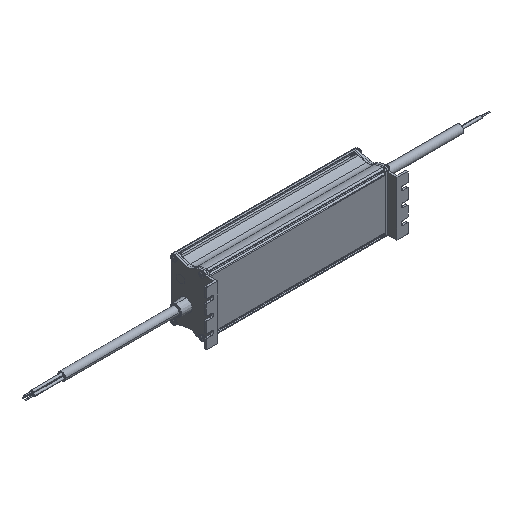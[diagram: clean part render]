
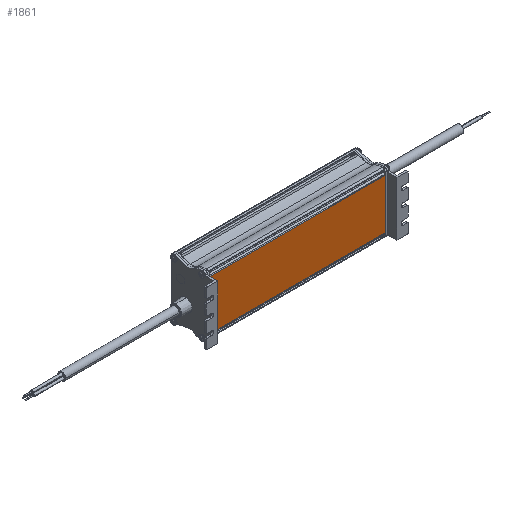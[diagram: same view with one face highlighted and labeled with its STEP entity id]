
A CAD part, isometric view. The second image highlights one B-rep face of the part: STEP entity #1861.
In plain terms, the highlighted planar face has unit normal (0, -1, 0).
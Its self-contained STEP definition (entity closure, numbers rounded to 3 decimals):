
#271=DIRECTION('',(-1.,0.,0.));
#272=VECTOR('',#271,175.);
#273=CARTESIAN_POINT('',(87.5,-17.,24.683));
#274=LINE('',#273,#272);
#488=DIRECTION('',(0.,0.,1.));
#489=VECTOR('',#488,49.366);
#490=CARTESIAN_POINT('',(87.5,-17.,-24.683));
#491=LINE('',#490,#489);
#708=DIRECTION('',(1.,0.,0.));
#709=VECTOR('',#708,175.);
#710=CARTESIAN_POINT('',(-87.5,-17.,-24.683));
#711=LINE('',#710,#709);
#712=DIRECTION('',(0.,0.,1.));
#713=VECTOR('',#712,49.366);
#714=CARTESIAN_POINT('',(-87.5,-17.,-24.683));
#715=LINE('',#714,#713);
#829=CARTESIAN_POINT('',(-87.5,-17.,24.683));
#831=VERTEX_POINT('',#829);
#832=CARTESIAN_POINT('',(-87.5,-17.,-24.683));
#833=VERTEX_POINT('',#832);
#975=CARTESIAN_POINT('',(87.5,-17.,24.683));
#977=VERTEX_POINT('',#975);
#1064=CARTESIAN_POINT('',(87.5,-17.,-24.683));
#1065=VERTEX_POINT('',#1064);
#1850=CARTESIAN_POINT('',(-87.5,-17.,30.));
#1851=DIRECTION('',(0.,-1.,0.));
#1852=DIRECTION('',(0.,0.,-1.));
#1853=AXIS2_PLACEMENT_3D('',#1850,#1851,#1852);
#1854=PLANE('',#1853);
#1855=ORIENTED_EDGE('',*,*,#1242,.F.);
#1856=ORIENTED_EDGE('',*,*,#1371,.F.);
#1857=ORIENTED_EDGE('',*,*,#1845,.F.);
#1858=ORIENTED_EDGE('',*,*,#1097,.T.);
#1859=EDGE_LOOP('',(#1855,#1856,#1857,#1858));
#1860=FACE_OUTER_BOUND('',#1859,.F.);
#1861=ADVANCED_FACE('',(#1860),#1854,.T.);
#1097=EDGE_CURVE('',#833,#831,#715,.T.);
#1242=EDGE_CURVE('',#977,#831,#274,.T.);
#1371=EDGE_CURVE('',#1065,#977,#491,.T.);
#1845=EDGE_CURVE('',#833,#1065,#711,.T.);
